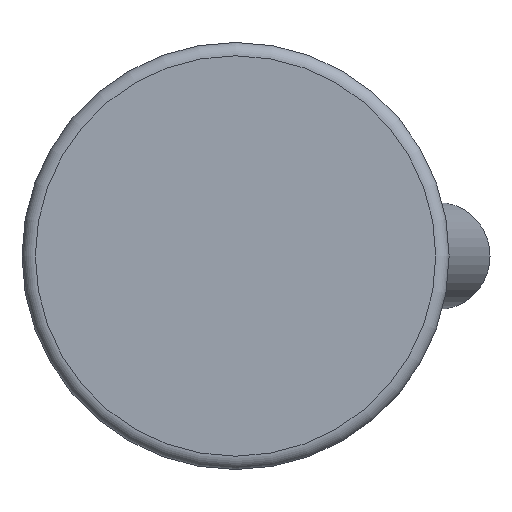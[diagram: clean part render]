
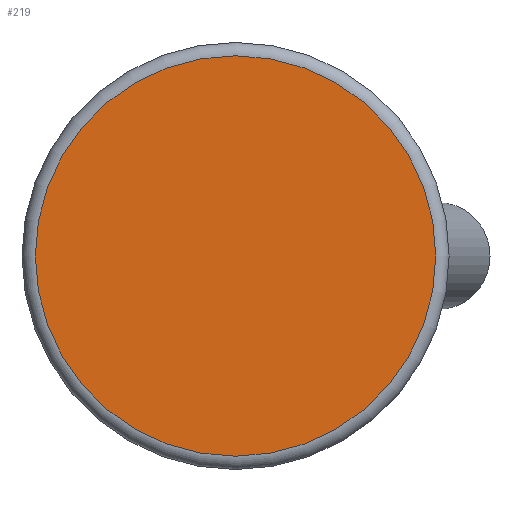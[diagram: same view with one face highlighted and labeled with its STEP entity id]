
A CAD part, front view. The second image highlights one B-rep face of the part: STEP entity #219.
In plain terms, the highlighted planar face has unit normal (0, -1, 0).
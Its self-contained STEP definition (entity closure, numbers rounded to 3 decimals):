
#219 = ADVANCED_FACE( '', ( #416 ), #417, .F. );
#416 = FACE_OUTER_BOUND( '', #598, .T. );
#417 = PLANE( '', #599 );
#598 = EDGE_LOOP( '', ( #946 ) );
#599 = AXIS2_PLACEMENT_3D( '', #947, #948, #949 );
#946 = ORIENTED_EDGE( '', *, *, #1119, .T. );
#947 = CARTESIAN_POINT( '', ( 15., 0., 0. ) );
#948 = DIRECTION( '', ( 0., 1., 0. ) );
#949 = DIRECTION( '', ( 0., 0., 1. ) );
#1119 = EDGE_CURVE( '', #1311, #1311, #1312, .T. );
#1311 = VERTEX_POINT( '', #1747 );
#1312 = CIRCLE( '', #1748, 15. );
#1747 = CARTESIAN_POINT( '', ( 0., 0., -15. ) );
#1748 = AXIS2_PLACEMENT_3D( '', #1900, #1901, #1902 );
#1900 = CARTESIAN_POINT( '', ( 0., 0., 0. ) );
#1901 = DIRECTION( '', ( 0., -1., 0. ) );
#1902 = DIRECTION( '', ( 0., 0., -1. ) );
